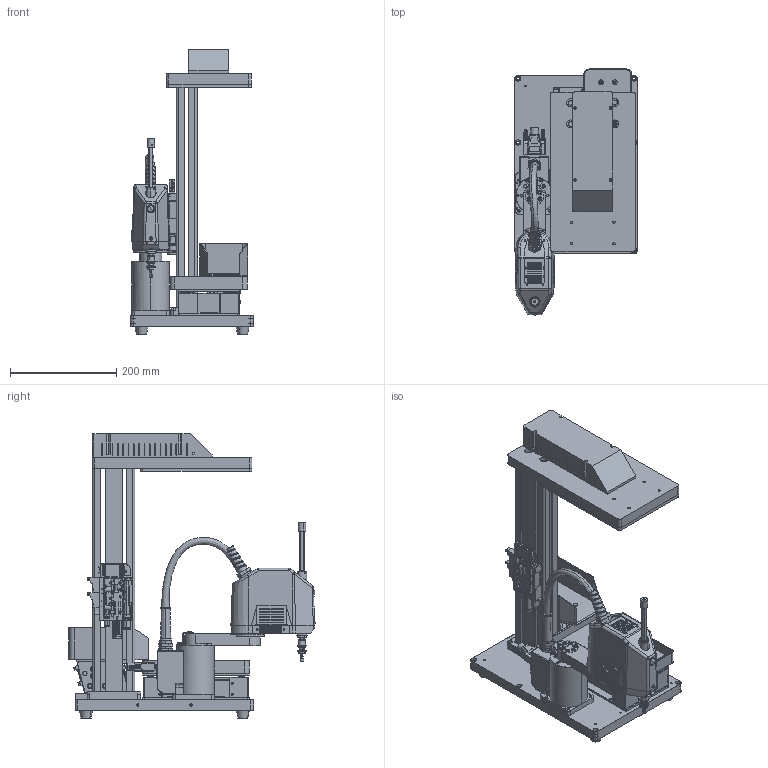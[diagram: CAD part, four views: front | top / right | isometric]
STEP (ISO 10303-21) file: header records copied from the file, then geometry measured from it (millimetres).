
FILE_DESCRIPTION (( 'STEP AP214' ), '1' );
FILE_NAME ('柔性上料套装-小款.STEP', '2026-06-18T10:19:31', ( 'Windows User' ), ( 'P R C' ), 'SwSTEP 2.0', 'SolidWorks 2023', '' );
FILE_SCHEMA (( 'AUTOMOTIVE_DESIGN' ));
Length unit declared in the file: millimetre
Products named in the file (1): 柔性上料套装-小款
Bounding box: 230 x 462.66 x 535 mm (x, y, z)
Surface area: 1044278.8 mm2 (no closed solid volume)
Topology: 0 solids, 195 shells, 2373 faces, 9718 edges, 7440 vertices
Faces by surface type: plane 1025, cylinder 977, cone 194, bspline 88, torus 72, sphere 17
Entity records: 118781 total; most frequent: CARTESIAN_POINT 38215, DIRECTION 17099, ORIENTED_EDGE 13996, EDGE_CURVE 9712, VERTEX_POINT 7440, AXIS2_PLACEMENT_3D 5993, LINE 5113, VECTOR 5113
